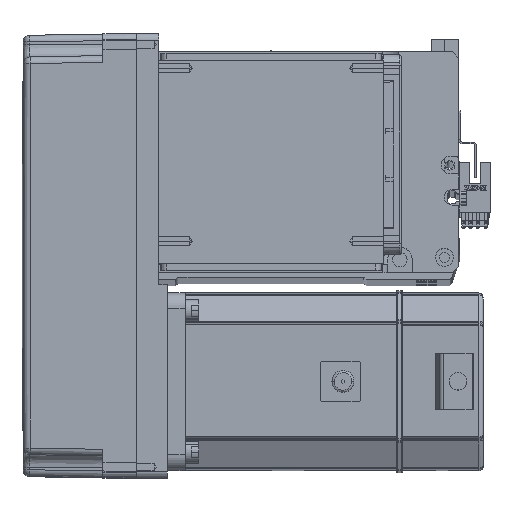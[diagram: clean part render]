
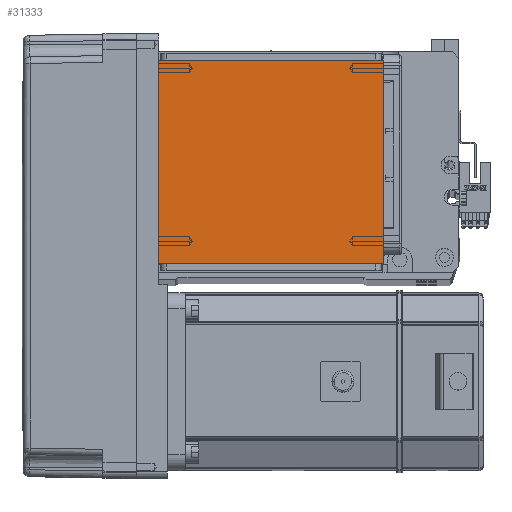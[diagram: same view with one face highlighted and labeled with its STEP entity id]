
A CAD part, top view. The second image highlights one B-rep face of the part: STEP entity #31333.
In plain terms, the highlighted planar face has unit normal (0, 0, 1).
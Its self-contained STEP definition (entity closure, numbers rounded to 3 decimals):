
#1634 = LINE ( 'NONE', #30787, #4585 ) ;
#2592 = DIRECTION ( 'NONE',  ( 1., 0., 0. ) ) ;
#3602 = PLANE ( 'NONE',  #58201 ) ;
#4585 = VECTOR ( 'NONE', #11650, 1000. ) ;
#5020 = VERTEX_POINT ( 'NONE', #40237 ) ;
#8556 = LINE ( 'NONE', #60302, #41334 ) ;
#9280 = FACE_OUTER_BOUND ( 'NONE', #54779, .T. ) ;
#11650 = DIRECTION ( 'NONE',  ( 0., -1., 0. ) ) ;
#13548 = DIRECTION ( 'NONE',  ( 0., 0., 1. ) ) ;
#16754 = VECTOR ( 'NONE', #2592, 1000. ) ;
#18924 = ORIENTED_EDGE ( 'NONE', *, *, #50425, .F. ) ;
#19229 = ORIENTED_EDGE ( 'NONE', *, *, #23077, .F. ) ;
#23077 = EDGE_CURVE ( 'NONE', #5020, #25208, #8556, .T. ) ;
#25208 = VERTEX_POINT ( 'NONE', #52822 ) ;
#25815 = EDGE_CURVE ( 'NONE', #5020, #54564, #41769, .T. ) ;
#26773 = DIRECTION ( 'NONE',  ( 0., 1., 0. ) ) ;
#27394 = DIRECTION ( 'NONE',  ( 1., 0., 0. ) ) ;
#27458 = DIRECTION ( 'NONE',  ( -1., 0., 0. ) ) ;
#29156 = LINE ( 'NONE', #39945, #16754 ) ;
#29196 = CARTESIAN_POINT ( 'NONE',  ( 50.5, 111.5, 115. ) ) ;
#30361 = CARTESIAN_POINT ( 'NONE',  ( -50.5, 111.5, 115. ) ) ;
#30772 = VECTOR ( 'NONE', #26773, 1000. ) ;
#30787 = CARTESIAN_POINT ( 'NONE',  ( -50.5, 122., 115. ) ) ;
#31047 = CARTESIAN_POINT ( 'NONE',  ( 50.5, 122., 115. ) ) ;
#31333 = ADVANCED_FACE ( 'NONE', ( #9280 ), #3602, .T. ) ;
#31674 = CARTESIAN_POINT ( 'NONE',  ( 0., 0., 115. ) ) ;
#39157 = ORIENTED_EDGE ( 'NONE', *, *, #25815, .T. ) ;
#39945 = CARTESIAN_POINT ( 'NONE',  ( -70.004, 111.5, 115. ) ) ;
#40237 = CARTESIAN_POINT ( 'NONE',  ( 50.5, 20., 115. ) ) ;
#40388 = ORIENTED_EDGE ( 'NONE', *, *, #41161, .T. ) ;
#41161 = EDGE_CURVE ( 'NONE', #45657, #25208, #1634, .T. ) ;
#41334 = VECTOR ( 'NONE', #27458, 1000. ) ;
#41769 = LINE ( 'NONE', #31047, #30772 ) ;
#45657 = VERTEX_POINT ( 'NONE', #30361 ) ;
#50425 = EDGE_CURVE ( 'NONE', #45657, #54564, #29156, .T. ) ;
#52822 = CARTESIAN_POINT ( 'NONE',  ( -50.5, 20., 115. ) ) ;
#54564 = VERTEX_POINT ( 'NONE', #29196 ) ;
#54779 = EDGE_LOOP ( 'NONE', ( #18924, #40388, #19229, #39157 ) ) ;
#58201 = AXIS2_PLACEMENT_3D ( 'NONE', #31674, #13548, #27394 ) ;
#60302 = CARTESIAN_POINT ( 'NONE',  ( -70.004, 20., 115. ) ) ;
